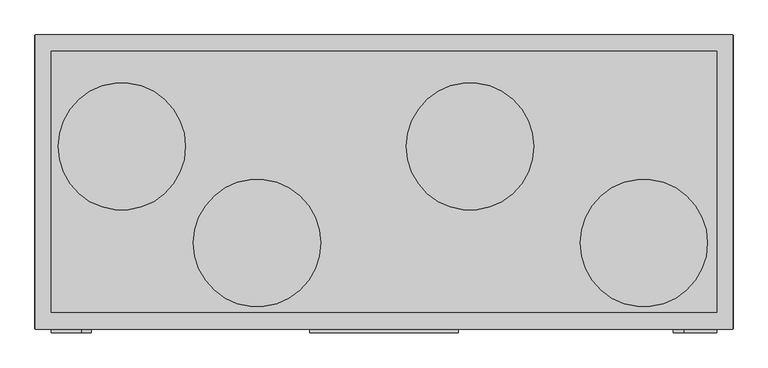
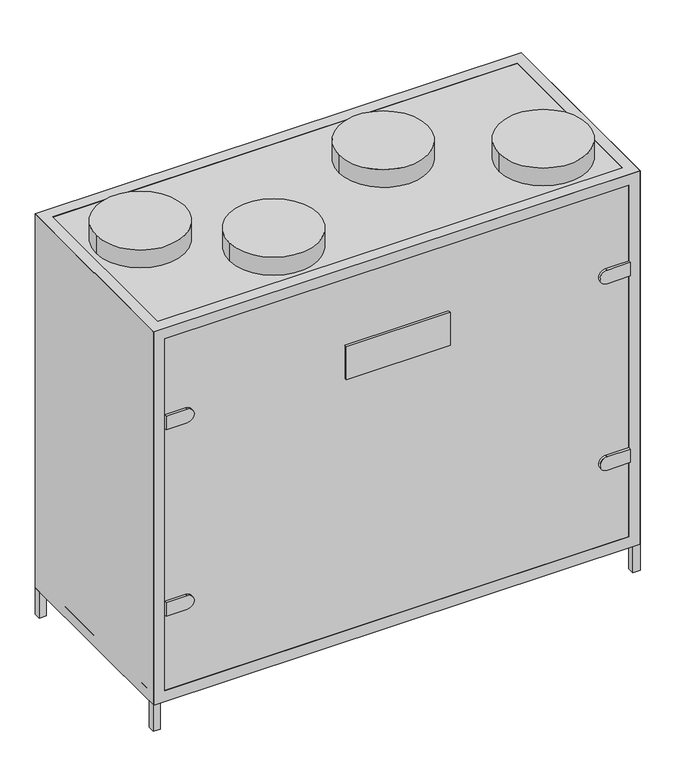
"""IFC4 building model written with IfcOpenShell, lengths in millimetres: proxy geometry, AVS 400...1600-V-RC(RG) : AVS 1600-V-RC."""

import ifcopenshell
import ifcopenshell.guid

model = None  # the IFC model being written
_history = None  # IfcOwnerHistory: only IFC2X3 demands one
_inside = {}  # id of a spatial element -> (the spatial element, [elements in it])
_under = {}  # id of a project, library or spatial element -> (it, [spatial elements below it])
_declared = {}  # id of a project -> (the project, [libraries it declares])
_typed = {}  # id of a type object -> (the type object, [elements of that type])
_made_of = {}  # id of a material, layer set ... -> (it, [elements and type objects made of it])


def new_model(schema):
    """Start an empty IFC model of exactly this schema.

    Asked for "IFC4X3", IfcOpenShell would pick the latest addendum, in which some entities
    have other attributes; the version numbers below select the first issue.
    IFC2X3 requires an IfcOwnerHistory on every rooted entity: one is made here for all.
    """
    global model, _history
    if schema == "IFC4X3":
        model = ifcopenshell.file(schema_version=(4, 3, 0, 0))
    else:
        model = ifcopenshell.file(schema=schema)
    _inside.clear()
    _under.clear()
    _declared.clear()
    _typed.clear()
    _made_of.clear()
    _history = None
    if model.schema == "IFC2X3":
        org = make("IfcOrganization", Name="unknown")
        user = make(
            "IfcPersonAndOrganization",
            ThePerson=make("IfcPerson", FamilyName="unknown"),
            TheOrganization=org,
        )
        app = make(
            "IfcApplication",
            ApplicationDeveloper=org,
            Version="unknown",
            ApplicationFullName="unknown",
            ApplicationIdentifier="unknown",
        )
        _history = make(
            "IfcOwnerHistory",
            OwningUser=user,
            OwningApplication=app,
            ChangeAction="ADDED",
            CreationDate=0,
        )
    return model


def make(cls, **values):
    """One entity of the class cls with the attributes given. An attribute that is None is left unset."""
    return model.create_entity(
        cls, **{name: value for name, value in values.items() if value is not None}
    )


def rooted(cls, **values):
    """An entity with a GlobalId (a new one), such as an element, a storey or a relation."""
    return make(cls, GlobalId=ifcopenshell.guid.new(), OwnerHistory=_history, **values)


def si_unit(unit_type, name, prefix=None):
    """IfcSIUnit, for example si_unit("LENGTHUNIT", "METRE", prefix="MILLI")."""
    return make("IfcSIUnit", UnitType=unit_type, Prefix=prefix, Name=name)


def assignment(units):
    """IfcUnitAssignment: the units of a project."""
    return None if units is None else make("IfcUnitAssignment", Units=units)


def point(xyz):
    """IfcCartesianPoint."""
    return None if xyz is None else make("IfcCartesianPoint", Coordinates=xyz)


def direction(xyz):
    """IfcDirection."""
    return None if xyz is None else make("IfcDirection", DirectionRatios=xyz)


def frame(location, z_axis=None, x_axis=None):
    """IfcAxis2Placement3D, a coordinate frame: its origin and axes. An axis left out is left unset."""
    return make(
        "IfcAxis2Placement3D",
        Location=point(location),
        Axis=direction(z_axis),
        RefDirection=direction(x_axis),
    )


def frame_2d(location, x_axis=None):
    """IfcAxis2Placement2D, a coordinate frame in the plane: its origin and x axis."""
    return make(
        "IfcAxis2Placement2D", Location=point(location), RefDirection=direction(x_axis)
    )


def origin():
    """The frame at (0, 0, 0) with its axes left unset."""
    return frame((0.0, 0.0, 0.0))


def origin_with_axes():
    """The frame at (0, 0, 0) with the z axis (0, 0, 1) and the x axis (1, 0, 0) written out."""
    return frame((0.0, 0.0, 0.0), z_axis=(0.0, 0.0, 1.0), x_axis=(1.0, 0.0, 0.0))


def place(relative_to, where):
    """IfcLocalPlacement: puts the frame where relative to a parent placement (None: the world)."""
    return make(
        "IfcLocalPlacement", PlacementRelTo=relative_to, RelativePlacement=where
    )


def context(
    kind, dimensions, precision=None, world=None, true_north=None, identifier=None
):
    """IfcGeometricRepresentationContext, for example the 3D "Model" context."""
    return make(
        "IfcGeometricRepresentationContext",
        ContextIdentifier=identifier,
        ContextType=kind,
        CoordinateSpaceDimension=dimensions,
        Precision=precision,
        WorldCoordinateSystem=world,
        TrueNorth=true_north,
    )


def project(units=None, contexts=None):
    """IfcProject with its units and contexts."""
    return rooted(
        "IfcProject",
        Name="project",
        RepresentationContexts=contexts,
        UnitsInContext=assignment(units),
    )


def spatial(cls, under=None, at=None, **own):
    """A site, building, storey or space (cls), placed at a placement, below another one or the project."""
    s = rooted(cls, ObjectPlacement=at, **own)
    if under is not None:
        _under.setdefault(under.id(), (under, []))[1].append(s)
    return s


def polyline(points):
    """IfcPolyline through the points."""
    return make("IfcPolyline", Points=[point(p) for p in points])


def circle_curve(where, radius):
    """IfcCircle in the frame where."""
    return make("IfcCircle", Position=where, Radius=radius)


def trimmed(basis, trim1, trim2, sense, master):
    """IfcTrimmedCurve: the piece of a basis curve between two trims."""
    return make(
        "IfcTrimmedCurve",
        BasisCurve=basis,
        Trim1=trim1,
        Trim2=trim2,
        SenseAgreement=sense,
        MasterRepresentation=master,
    )


def segment(curve, same_sense, transition):
    """IfcCompositeCurveSegment."""
    return make(
        "IfcCompositeCurveSegment",
        Transition=transition,
        SameSense=same_sense,
        ParentCurve=curve,
    )


def composite_curve(segments, self_intersect=None):
    """IfcCompositeCurve: segments joined end to end."""
    return make("IfcCompositeCurve", Segments=segments, SelfIntersect=self_intersect)


def outline(outer, holes=None, kind="AREA"):
    """IfcArbitraryClosedProfileDef: a profile drawn as a closed curve; with holes, ...WithVoids."""
    if holes is None:
        return make("IfcArbitraryClosedProfileDef", ProfileType=kind, OuterCurve=outer)
    return make(
        "IfcArbitraryProfileDefWithVoids",
        ProfileType=kind,
        OuterCurve=outer,
        InnerCurves=holes,
    )


def extrude(swept, where, along, depth):
    """IfcExtrudedAreaSolid: the profile swept, set in the frame where, extruded along a direction by depth."""
    return make(
        "IfcExtrudedAreaSolid",
        SweptArea=swept,
        Position=where,
        ExtrudedDirection=direction(along),
        Depth=depth,
    )


def faces_of(points, faces, orient=None, outer=None):
    """IfcFace entities. A face is a list of loops; a loop is a list of indices into points, from 0.

    orient and outer hold one flag for each loop. By default every Orientation is true, the
    first loop of a face is its IfcFaceOuterBound and the others are IfcFaceBound.
    """
    made = []
    for i, loops in enumerate(faces):
        bounds = []
        for j, loop in enumerate(loops):
            is_outer = j == 0 if outer is None else outer[i][j]
            bounds.append(
                make(
                    "IfcFaceOuterBound" if is_outer else "IfcFaceBound",
                    Bound=make("IfcPolyLoop", Polygon=[points[k] for k in loop]),
                    Orientation=True if orient is None else orient[i][j],
                )
            )
        made.append(make("IfcFace", Bounds=bounds))
    return made


def faceted_brep(points, faces, orient=None, outer=None, voids=None):
    """IfcFacetedBrep: a solid bounded by flat faces; with voids (closed shells), ...WithVoids."""
    shared = [point(p) for p in points]
    hull = make("IfcClosedShell", CfsFaces=faces_of(shared, faces, orient, outer))
    if voids is None:
        return make("IfcFacetedBrep", Outer=hull)
    return make(
        "IfcFacetedBrepWithVoids",
        Outer=hull,
        Voids=[
            make(cls, CfsFaces=faces_of(shared, fs, o, b)) for cls, fs, o, b in voids
        ],
    )


def shape(context_of_items, identifier, shape_type, items):
    """IfcShapeRepresentation: the items that make up one representation, for example the "Body"."""
    return make(
        "IfcShapeRepresentation",
        ContextOfItems=context_of_items,
        RepresentationIdentifier=identifier,
        RepresentationType=shape_type,
        Items=items,
    )


def source(mapping_origin, context_of_items, identifier, shape_type, items):
    """IfcRepresentationMap: a shape defined once, which mapped items show again and again."""
    return make(
        "IfcRepresentationMap",
        MappingOrigin=mapping_origin,
        MappedRepresentation=shape(context_of_items, identifier, shape_type, items),
    )


def transform(
    local_origin,
    x_axis=None,
    y_axis=None,
    z_axis=None,
    scale=None,
    scale2=None,
    scale3=None,
    uniform=True,
):
    """IfcCartesianTransformationOperator3D, or its non-uniform kind. x_axis, y_axis, z_axis: its Axis1, 2, 3."""
    if uniform:
        return make(
            "IfcCartesianTransformationOperator3D",
            Axis1=direction(x_axis),
            Axis2=direction(y_axis),
            LocalOrigin=point(local_origin),
            Scale=scale,
            Axis3=direction(z_axis),
        )
    return make(
        "IfcCartesianTransformationOperator3DnonUniform",
        Axis1=direction(x_axis),
        Axis2=direction(y_axis),
        LocalOrigin=point(local_origin),
        Scale=scale,
        Axis3=direction(z_axis),
        Scale2=scale2,
        Scale3=scale3,
    )


def mapped(mapping_source, mapping_target):
    """IfcMappedItem: shows the shape of a source again, moved by a transform."""
    return make(
        "IfcMappedItem", MappingSource=mapping_source, MappingTarget=mapping_target
    )


def made_of(thing, what):
    """Note that an element or type object is made of a material, layer set ...; save() writes the relation."""
    if what is not None:
        _made_of.setdefault(what.id(), (what, []))[1].append(thing)
    return thing


def element(
    cls,
    number,
    at=None,
    inside=None,
    cuts=None,
    type_object=None,
    material=None,
    context=None,
    identifier="Body",
    shape_type=None,
    held_by="IfcProductDefinitionShape",
    body=None,
    shapes=None,
    **own,
):
    """One element of the class cls, such as IfcWall. Its Tag is "e" and its number.

    at: its placement. inside: the storey or other place that contains it. cuts: it is an
    opening in that element (IfcRelVoidsElement). A single representation is given by context,
    identifier, shape_type and body (its items); several are given by shapes. held_by: the class
    of the entity that holds the representations. save() writes the other relations.
    """
    e = rooted(cls, Tag="e%d" % number, ObjectPlacement=at, **own)
    if body is not None:
        shapes = [shape(context, identifier, shape_type, body)]
    if shapes is not None:
        e.Representation = make(held_by, Representations=shapes)
    if inside is not None:
        _inside.setdefault(inside.id(), (inside, []))[1].append(e)
    if cuts is not None:
        rooted(
            "IfcRelVoidsElement", RelatingBuildingElement=cuts, RelatedOpeningElement=e
        )
    if type_object is not None:
        _typed.setdefault(type_object.id(), (type_object, []))[1].append(e)
    return made_of(e, material)


def aggregate(whole, parts):
    """IfcRelAggregates: a whole, such as a stair, and the parts it consists of."""
    return rooted("IfcRelAggregates", RelatingObject=whole, RelatedObjects=parts)


def save(model, path):
    """Write the relations noted so far, then the file.

    IfcRelAggregates (storeys below a building ...), IfcRelContainedInSpatialStructure (elements
    in a storey), IfcRelDefinesByType, IfcRelAssociatesMaterial and IfcRelDeclares: one each for
    every whole, place, type object, material and project.
    """
    for whole, parts in _under.values():
        aggregate(whole, parts)
    for where, things in _inside.values():
        rooted(
            "IfcRelContainedInSpatialStructure",
            RelatedElements=things,
            RelatingStructure=where,
        )
    for kind, things in _typed.values():
        rooted("IfcRelDefinesByType", RelatedObjects=things, RelatingType=kind)
    for what, things in _made_of.values():
        rooted("IfcRelAssociatesMaterial", RelatedObjects=things, RelatingMaterial=what)
    for by, libraries in _declared.values():
        rooted("IfcRelDeclares", RelatingContext=by, RelatedDefinitions=libraries)
    model.write(path)


def mechanical_equipment_99d7c7c8(model_context):
    return source(origin(), model_context, "Body", "SolidModel", [
        extrude(outline(polyline([(839.0, 363.0), (864.0, 363.0), (864.0, 338.0), (839.0, 338.0), (839.0, 363.0)])), origin_with_axes(), (0.0, 0.0, 1.0), 100.0),
        extrude(outline(polyline([(839.0, -363.0), (839.0, -338.0), (864.0, -338.0), (864.0, -363.0), (839.0, -363.0)])), origin_with_axes(), (0.0, 0.0, 1.0), 100.0),
        extrude(outline(polyline([(-864.0, 338.0), (-864.0, 363.0), (-839.0, 363.0), (-839.0, 338.0), (-864.0, 338.0)])), origin_with_axes(), (0.0, 0.0, 1.0), 100.0),
        extrude(outline(polyline([(-864.0, -338.0), (-839.0, -338.0), (-839.0, -363.0), (-864.0, -363.0), (-864.0, -338.0)])), origin_with_axes(), (0.0, 0.0, 1.0), 100.0),
        faceted_brep([(863.0, 364.0, 1501.0), (-863.0, 364.0, 1501.0), (-863.0, -364.0, 1501.0), (863.0, -364.0, 1501.0), (-824.0, 323.0, 1501.0), (20.0, 323.0, 1501.0), (824.0, 323.0, 1501.0), (824.0, -323.0, 1501.0), (20.0, -323.0, 1501.0), (-824.0, -323.0, 1501.0), (863.0, 364.0, 99.0), (863.0, -364.0, 99.0), (-863.0, -364.0, 99.0), (-863.0, 364.0, 99.0), (20.0, 323.0, 99.0), (-824.0, 323.0, 99.0), (-824.0, -323.0, 99.0), (20.0, -323.0, 99.0), (824.0, -323.0, 99.0), (824.0, 323.0, 99.0), (20.0, 364.0, 1460.0), (-824.0, 364.0, 1460.0), (-824.0, 364.0, 140.0), (20.0, 364.0, 140.0), (824.0, 364.0, 140.0), (824.0, 364.0, 1460.0), (-863.0, -323.0, 1460.0), (-863.0, -323.0, 140.0), (-863.0, 323.0, 140.0), (-863.0, 323.0, 1460.0), (-824.0, -364.0, 1460.0), (20.0, -364.0, 1460.0), (824.0, -364.0, 1460.0), (824.0, -364.0, 140.0), (20.0, -364.0, 140.0), (-824.0, -364.0, 140.0), (863.0, -323.0, 140.0), (863.0, -323.0, 1460.0), (863.0, 323.0, 1460.0), (863.0, 323.0, 140.0), (-824.0, 323.0, 1460.0), (20.0, 323.0, 1460.0), (20.0, 323.0, 140.0), (-824.0, 323.0, 140.0), (20.0, -323.0, 1460.0), (-824.0, -323.0, 1460.0), (-824.0, -323.0, 140.0), (20.0, -323.0, 140.0), (824.0, 323.0, 1460.0), (824.0, -323.0, 1460.0), (824.0, -323.0, 140.0), (824.0, 323.0, 140.0)], [[[0, 1, 2, 3], [4, 5, 6, 7, 8, 9]], [[10, 11, 12, 13], [14, 15, 16, 17, 18, 19]], [[1, 0, 10, 13], [20, 21, 22, 23, 24, 25]], [[2, 1, 13, 12], [26, 27, 28, 29]], [[3, 2, 12, 11], [30, 31, 32, 33, 34, 35]], [[0, 3, 11, 10], [36, 37, 38, 39]], [[5, 4, 40, 41]], [[15, 14, 42, 43]], [[9, 8, 44, 45]], [[17, 16, 46, 47]], [[7, 6, 48, 49]], [[19, 18, 50, 51]], [[32, 49, 50, 33]], [[48, 25, 24, 51]], [[30, 45, 44, 31]], [[20, 41, 40, 21]], [[46, 35, 34, 47]], [[42, 23, 22, 43]], [[26, 45, 46, 27]], [[49, 37, 36, 50]], [[50, 36, 39, 51]], [[43, 28, 27, 46]], [[51, 39, 38, 48]], [[40, 29, 28, 43]], [[37, 49, 48, 38]], [[29, 40, 45, 26]], [[4, 9, 45, 40]], [[16, 15, 43, 46]], [[45, 30, 35, 46]], [[21, 40, 43, 22]], [[6, 5, 41, 48]], [[14, 19, 51, 42]], [[8, 7, 49, 44]], [[18, 17, 47, 50]], [[49, 32, 31, 44]], [[41, 20, 25, 48]], [[33, 50, 47, 34]], [[23, 42, 51, 24]]]),
        extrude(outline(polyline([(-864.0, 363.0), (864.0, 363.0), (864.0, -363.0), (-864.0, -363.0), (-864.0, 363.0)])), frame((0.0, 0.0, 100.0), z_axis=(0.0, 0.0, 1.0), x_axis=(1.0, 0.0, 0.0)), (0.0, 0.0, 1.0), 1400.0),
        extrude(outline(composite_curve([segment(trimmed(circle_curve(frame_2d((-649.0, 88.0)), 157.5), [point((-491.5, 88.0))], [point((-806.5, 88.0))], False, "CARTESIAN"), True, "CONTINUOUS"), segment(trimmed(circle_curve(frame_2d((-649.0, 88.0)), 157.5), [point((-806.5, 88.0))], [point((-491.5, 88.0))], False, "CARTESIAN"), True, "CONTINUOUS")], self_intersect=False)), frame((0.0, 0.0, 1501.0), z_axis=(0.0, 0.0, 1.0), x_axis=(1.0, 0.0, 0.0)), (0.0, 0.0, 1.0), 67.0),
        extrude(outline(composite_curve([segment(trimmed(circle_curve(frame_2d((-314.0, -151.0)), 157.5), [point((-156.5, -151.0))], [point((-471.5, -151.0))], False, "CARTESIAN"), True, "CONTINUOUS"), segment(trimmed(circle_curve(frame_2d((-314.0, -151.0)), 157.5), [point((-471.5, -151.0))], [point((-156.5, -151.0))], False, "CARTESIAN"), True, "CONTINUOUS")], self_intersect=False)), frame((0.0, 0.0, 1501.0), z_axis=(0.0, 0.0, 1.0), x_axis=(1.0, 0.0, 0.0)), (0.0, 0.0, 1.0), 67.0),
        extrude(outline(composite_curve([segment(trimmed(circle_curve(frame_2d((213.0, 88.0)), 157.5), [point((370.5, 88.0))], [point((55.5, 88.0))], False, "CARTESIAN"), True, "CONTINUOUS"), segment(trimmed(circle_curve(frame_2d((213.0, 88.0)), 157.5), [point((55.5, 88.0))], [point((370.5, 88.0))], False, "CARTESIAN"), True, "CONTINUOUS")], self_intersect=False)), frame((0.0, 0.0, 1501.0), z_axis=(0.0, 0.0, 1.0), x_axis=(1.0, 0.0, 0.0)), (0.0, 0.0, 1.0), 67.0),
        extrude(outline(composite_curve([segment(trimmed(circle_curve(frame_2d((643.0, -151.0)), 157.5), [point((800.5, -151.0))], [point((485.5, -151.0))], False, "CARTESIAN"), True, "CONTINUOUS"), segment(trimmed(circle_curve(frame_2d((643.0, -151.0)), 157.5), [point((485.5, -151.0))], [point((800.5, -151.0))], False, "CARTESIAN"), True, "CONTINUOUS")], self_intersect=False)), frame((0.0, 0.0, 1501.0), z_axis=(0.0, 0.0, 1.0), x_axis=(1.0, 0.0, 0.0)), (0.0, 0.0, 1.0), 67.0),
        extrude(outline(composite_curve([segment(polyline([(1175.0, -749.2895396), (1175.0, -824.0), (1125.0, -824.0), (1125.0, -749.2895396)]), True, "CONTINUOUS"), segment(trimmed(circle_curve(frame_2d((1150.0, -749.2895396)), 25.0), [point((1125.0, -749.2895396))], [point((1175.0, -749.2895396))], False, "CARTESIAN"), True, "CONTINUOUS")], self_intersect=False)), frame((0.0, -373.0, 0.0), z_axis=(0.0, 1.0, 0.0), x_axis=(0.0, 0.0, 1.0)), (0.0, 0.0, 1.0), 10.0),
        extrude(outline(composite_curve([segment(polyline([(475.0, -749.2895396), (475.0, -824.0), (425.0, -824.0), (425.0, -749.2895396)]), True, "CONTINUOUS"), segment(trimmed(circle_curve(frame_2d((450.0, -749.2895396)), 25.0), [point((425.0, -749.2895396))], [point((475.0, -749.2895396))], False, "CARTESIAN"), True, "CONTINUOUS")], self_intersect=False)), frame((0.0, -373.0, 0.0), z_axis=(0.0, 1.0, 0.0), x_axis=(0.0, 0.0, 1.0)), (0.0, 0.0, 1.0), 10.0),
        extrude(outline(polyline([(184.0, -373.0), (-184.0, -373.0), (-184.0, -363.0), (184.0, -363.0), (184.0, -373.0)])), frame((0.0, 0.0, 1088.25), z_axis=(0.0, 0.0, 1.0), x_axis=(1.0, 0.0, 0.0)), (0.0, 0.0, 1.0), 123.5),
        extrude(outline(composite_curve([segment(trimmed(circle_curve(frame_2d((1150.0, 741.2895396)), 25.0), [point((1175.0, 741.2895396))], [point((1125.0, 741.2895396))], False, "CARTESIAN"), True, "CONTINUOUS"), segment(polyline([(1125.0, 741.2895396), (1125.0, 824.0), (1175.0, 824.0), (1175.0, 741.2895396)]), True, "CONTINUOUS")], self_intersect=False)), frame((0.0, -373.0, 0.0), z_axis=(0.0, 1.0, 0.0), x_axis=(0.0, 0.0, 1.0)), (0.0, 0.0, 1.0), 10.0),
        extrude(outline(composite_curve([segment(trimmed(circle_curve(frame_2d((450.0, 741.2895396)), 25.0), [point((475.0, 741.2895396))], [point((425.0, 741.2895396))], False, "CARTESIAN"), True, "CONTINUOUS"), segment(polyline([(425.0, 741.2895396), (425.0, 824.0), (475.0, 824.0), (475.0, 741.2895396)]), True, "CONTINUOUS")], self_intersect=False)), frame((0.0, -373.0, 0.0), z_axis=(0.0, 1.0, 0.0), x_axis=(0.0, 0.0, 1.0)), (0.0, 0.0, 1.0), 10.0),
    ])


if __name__ == "__main__":
    model = new_model("IFC4")
    model_context = context("Model", 3, world=origin())
    ifc_project = project(units=[si_unit("LENGTHUNIT", "METRE", prefix="MILLI")], contexts=[model_context])
    site = spatial("IfcSite", under=ifc_project)
    building = spatial("IfcBuilding", under=site)
    placement = place(None, origin())
    mechanical_equipment_shape = mechanical_equipment_99d7c7c8(model_context)
    element("IfcBuildingElementProxy", 1, Name="AVS 400...1600-V-RC(RG) : AVS 1600-V-RC", ObjectType="AVS 400...1600-V-RC(RG) : AVS 1600-V-RC", at=placement, inside=building, context=model_context, shape_type="MappedRepresentation", body=[
        mapped(mechanical_equipment_shape, transform((0.0, 0.0, 0.0), x_axis=(1.0, 0.0, 0.0), y_axis=(0.0, 1.0, 0.0), z_axis=(0.0, 0.0, 1.0))),
    ])
    save(model, "model.ifc")
